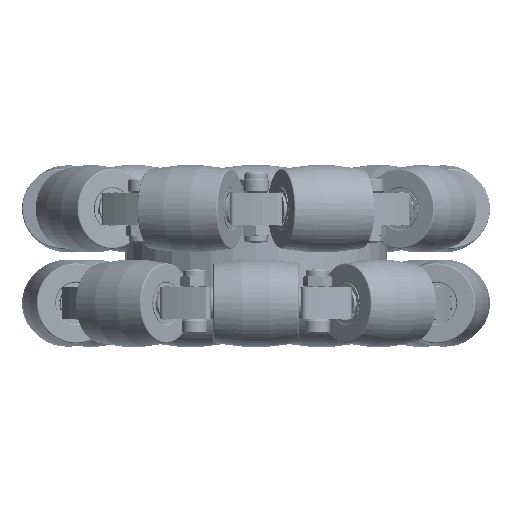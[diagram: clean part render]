
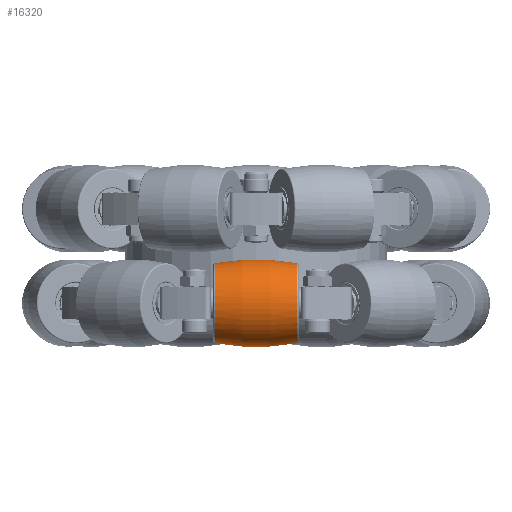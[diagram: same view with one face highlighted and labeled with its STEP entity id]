
A CAD part, front view. The second image highlights one B-rep face of the part: STEP entity #16320.
In plain terms, the highlighted toroidal (fillet/blend) face has major radius 41.3 mm and minor radius 50.8 mm.
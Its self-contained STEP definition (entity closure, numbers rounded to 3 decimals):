
#229 = DIRECTION ( 'NONE',  ( 0., 0., -1. ) ) ;
#286 = DIRECTION ( 'NONE',  ( 0., -1., 0. ) ) ;
#348 = CARTESIAN_POINT ( 'NONE',  ( 0., 41.3, -41.3 ) ) ;
#475 = VERTEX_POINT ( 'NONE', #16440 ) ;
#1094 = VERTEX_POINT ( 'NONE', #15300 ) ;
#1589 = DIRECTION ( 'NONE',  ( -1., 0., 0. ) ) ;
#2897 = CARTESIAN_POINT ( 'NONE',  ( -9.003, 41.3, 0. ) ) ;
#2932 = CARTESIAN_POINT ( 'NONE',  ( 0., 41.3, 0. ) ) ;
#3214 = ORIENTED_EDGE ( 'NONE', *, *, #13881, .T. ) ;
#3417 = EDGE_LOOP ( 'NONE', ( #15481, #3214, #9455, #11856 ) ) ;
#3467 = CARTESIAN_POINT ( 'NONE',  ( 9.003, 41.3, 8.696 ) ) ;
#3844 = EDGE_CURVE ( 'NONE', #15991, #1094, #3985, .T. ) ;
#3985 = CIRCLE ( 'NONE', #6558, 50.8 ) ;
#4102 = CIRCLE ( 'NONE', #15070, 8.696 ) ;
#4197 = DIRECTION ( 'NONE',  ( 0., 0., -1. ) ) ;
#4331 = AXIS2_PLACEMENT_3D ( 'NONE', #7215, #16480, #8542 ) ;
#5834 = AXIS2_PLACEMENT_3D ( 'NONE', #2897, #12091, #4197 ) ;
#6558 = AXIS2_PLACEMENT_3D ( 'NONE', #348, #286, #229 ) ;
#6592 = CARTESIAN_POINT ( 'NONE',  ( 9.003, 41.3, 0. ) ) ;
#7215 = CARTESIAN_POINT ( 'NONE',  ( 0., 41.3, 41.3 ) ) ;
#7333 = TOROIDAL_SURFACE ( 'NONE', #9021, -41.3, 50.8 ) ;
#7908 = DIRECTION ( 'NONE',  ( 0., 0., 1. ) ) ;
#8542 = DIRECTION ( 'NONE',  ( 0., 0., 1. ) ) ;
#9021 = AXIS2_PLACEMENT_3D ( 'NONE', #2932, #1589, #14742 ) ;
#9455 = ORIENTED_EDGE ( 'NONE', *, *, #11368, .T. ) ;
#9883 = VERTEX_POINT ( 'NONE', #17011 ) ;
#11368 = EDGE_CURVE ( 'NONE', #475, #1094, #12704, .T. ) ;
#11856 = ORIENTED_EDGE ( 'NONE', *, *, #3844, .F. ) ;
#12091 = DIRECTION ( 'NONE',  ( 1., 0., 0. ) ) ;
#12704 = CIRCLE ( 'NONE', #5834, 8.696 ) ;
#13881 = EDGE_CURVE ( 'NONE', #9883, #475, #14461, .T. ) ;
#14390 = FACE_OUTER_BOUND ( 'NONE', #3417, .T. ) ;
#14461 = CIRCLE ( 'NONE', #4331, 50.8 ) ;
#14742 = DIRECTION ( 'NONE',  ( 0., 0., 1. ) ) ;
#15070 = AXIS2_PLACEMENT_3D ( 'NONE', #6592, #15843, #7908 ) ;
#15144 = EDGE_CURVE ( 'NONE', #15991, #9883, #4102, .T. ) ;
#15300 = CARTESIAN_POINT ( 'NONE',  ( -9.003, 41.3, 8.696 ) ) ;
#15481 = ORIENTED_EDGE ( 'NONE', *, *, #15144, .T. ) ;
#15843 = DIRECTION ( 'NONE',  ( -1., 0., 0. ) ) ;
#15991 = VERTEX_POINT ( 'NONE', #3467 ) ;
#16320 = ADVANCED_FACE ( 'NONE', ( #14390 ), #7333, .T. ) ;
#16440 = CARTESIAN_POINT ( 'NONE',  ( -9.003, 41.3, -8.696 ) ) ;
#16480 = DIRECTION ( 'NONE',  ( 0., 1., 0. ) ) ;
#17011 = CARTESIAN_POINT ( 'NONE',  ( 9.003, 41.3, -8.696 ) ) ;
